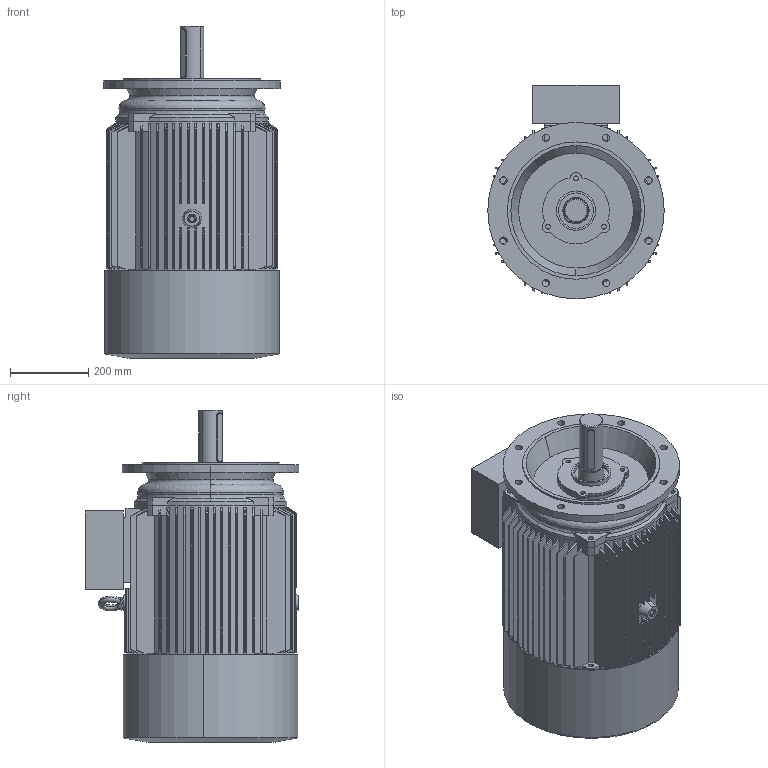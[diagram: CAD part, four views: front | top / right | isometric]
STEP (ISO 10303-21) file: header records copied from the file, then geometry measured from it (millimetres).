
FILE_DESCRIPTION (( 'STEP AP214' ), '1' );
FILE_NAME ('M3-225M-4p-FF-B5.STEP', '2019-05-24T11:30:45', ( '' ), ( '' ), 'SwSTEP 2.0', 'SolidWorks 2012', '' );
FILE_SCHEMA (( 'AUTOMOTIVE_DESIGN' ));
Length unit declared in the file: millimetre
Products named in the file (9): Eyebolts GB_GB_FASTENER_SCREWS_FRS M16-N_1; Y2-225-4Íß¦ð-Ô©Ã_-¼+¤; 225-4-ｦﾈﾁ_-ｼ+､; 225-4ﾍﾟ+ｦｰ+ｳ_-ｼ+､; Plain parallel keys_GB_CONNECTING_PIECE_KEYS_CSK 18X125; 225-4ﾍﾟ+_-ｼ+､; Y2-225ﾀiﾍ_-ｼ+､; Y2-225MB5+ｷﾎｨ_-ｼ+､; M3-225M-4p-FF-B5
Assembly tree (8 placements, depth 3):
  M3-225M-4p-FF-B5
    Y2-225MB5+ｷﾎｨ_-ｼ+､
    Y2-225ﾀiﾍ_-ｼ+､
    225-4ﾍﾟ+ｦｰ+ｳ_-ｼ+､
      225-4ﾍﾟ+_-ｼ+､
      Plain parallel keys_GB_CONNECTING_PIECE_KEYS_CSK 18X125
    225-4-ｦﾈﾁ_-ｼ+､
    Y2-225-4Íß¦ð-Ô©Ã_-¼+¤
    Eyebolts GB_GB_FASTENER_SCREWS_FRS M16-N_1
Bounding box: 450 x 545 x 846.5 mm (x, y, z)
Volume: 19133647.2 mm3; surface area: 3990709.9 mm2
Topology: 9 solids, 9 shells, 757 faces, 1987 edges, 1310 vertices
Faces by surface type: cylinder 268, plane 253, cone 196, bspline 40
Entity records: 30068 total; most frequent: CARTESIAN_POINT 11453, ORIENTED_EDGE 3974, DIRECTION 3558, EDGE_CURVE 1987, AXIS2_PLACEMENT_3D 1377, VERTEX_POINT 1310, EDGE_LOOP 887, LINE 804
